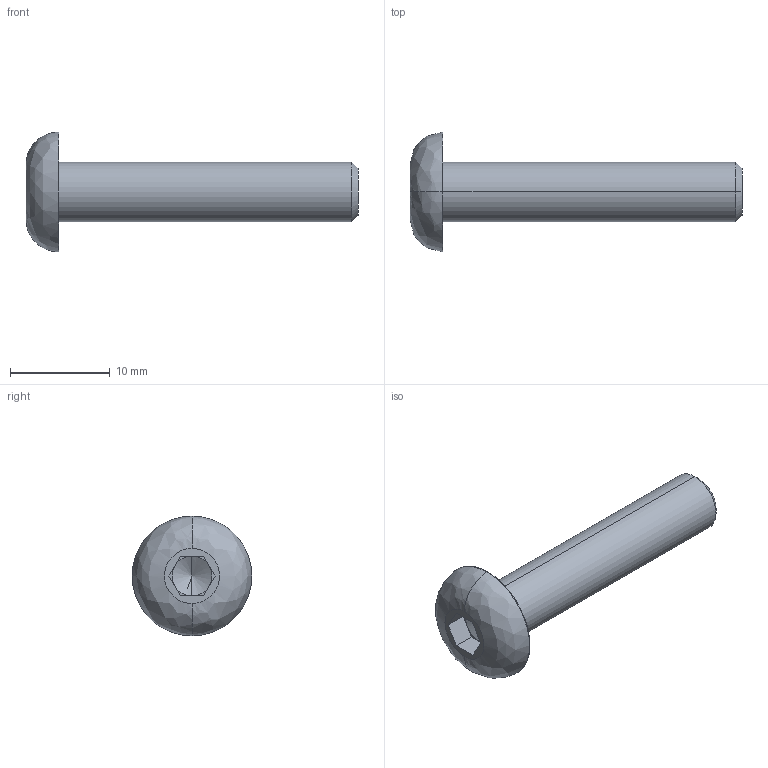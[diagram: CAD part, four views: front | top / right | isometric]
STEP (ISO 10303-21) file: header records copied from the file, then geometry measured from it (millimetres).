
FILE_DESCRIPTION (( 'STEP AP214' ), '1' );
FILE_NAME ('ISO7380_6x30.STEP', '2016-05-18T14:44:52', ( '' ), ( '' ), 'SwSTEP 2.0', 'SolidWorks 2014', '' );
FILE_SCHEMA (( 'AUTOMOTIVE_DESIGN' ));
Length unit declared in the file: millimetre
Products named in the file (1): ISO7380_6x30
Bounding box: 33.3 x 12 x 12 mm (x, y, z)
Volume: 1108.9 mm3; surface area: 883.4 mm2
Topology: 1 solids, 1 shells, 28 faces, 62 edges, 36 vertices
Faces by surface type: plane 15, cylinder 7, cone 4, bspline 2
Entity records: 808 total; most frequent: CARTESIAN_POINT 164, DIRECTION 135, ORIENTED_EDGE 120, EDGE_CURVE 60, AXIS2_PLACEMENT_3D 51, VERTEX_POINT 36, LINE 33, VECTOR 33
